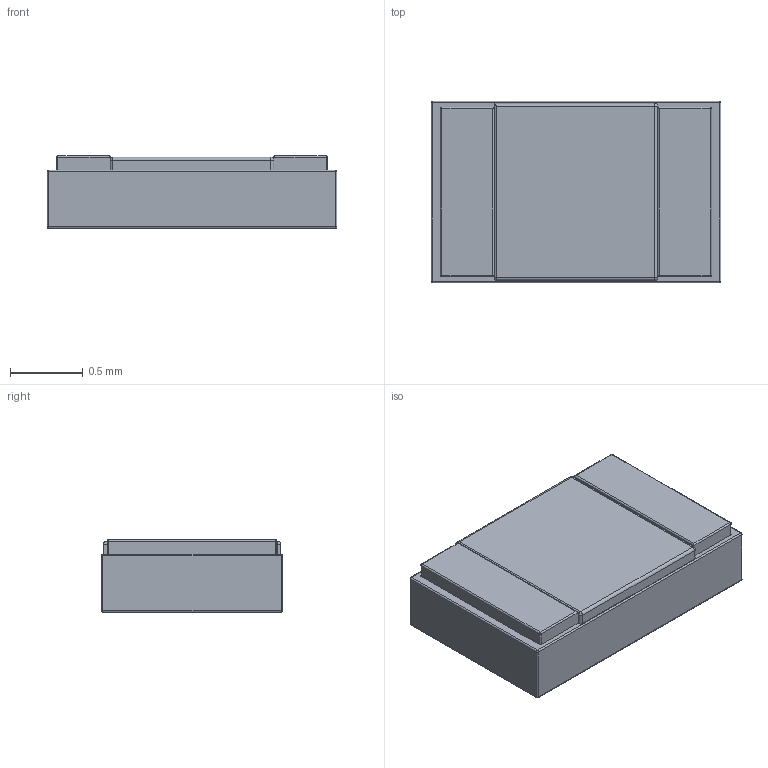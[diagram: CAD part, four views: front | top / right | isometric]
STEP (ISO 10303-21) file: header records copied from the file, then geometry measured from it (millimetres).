
FILE_DESCRIPTION(('STEP AP203'), '1');
FILE_NAME('R2-105-0806', '', ('UNSPECIFIED'), ('UNSPECIFIED'), 'ASCON STEP Converter 1.6', 'ASCON Math Kernel', '');
FILE_SCHEMA(('CONFIG_CONTROL_DESIGN'));
Length unit declared in the file: millimetre
Bounding box: 2 x 1.25 x 0.5 mm (x, y, z)
Volume: 1.2 mm3; surface area: 13.3 mm2
Topology: 4 solids, 5 shells, 89 faces, 202 edges, 108 vertices
Faces by surface type: plane 39, cylinder 35, sphere 15
Entity records: 3097 total; most frequent: DIRECTION 422, CARTESIAN_POINT 400, ORIENTED_EDGE 374, EDGE_CURVE 187, AXIS2_PLACEMENT_3D 150, LINE 122, VECTOR 122, VERTEX_POINT 108
